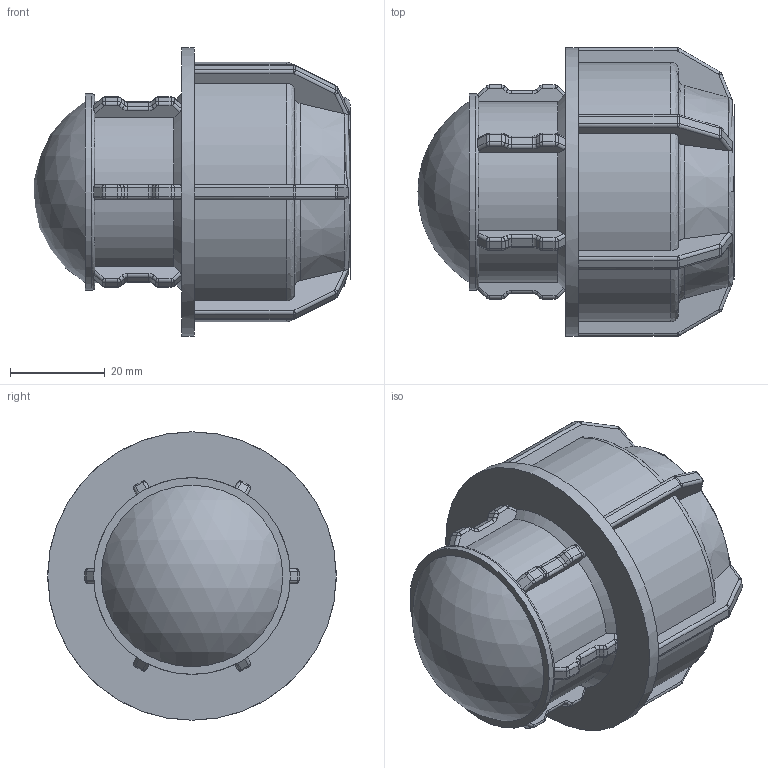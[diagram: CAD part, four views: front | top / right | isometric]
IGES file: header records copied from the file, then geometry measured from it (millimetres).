
Global section: file name: 141200032.ipt; native system: Autodesk Inventor 2015; preprocessor: unknown; author: KIM; date: 20180409.131138; units: millimetre
Bounding box: 66.85 x 61 x 61 mm (x, y, z)
Volume: 61386.7 mm3; surface area: 21912.2 mm2
Topology: 1 solids, 1 shells, 465 faces, 1149 edges, 686 vertices
Faces by surface type: cylinder 170, plane 156, revolution 126, cone 12, sphere 1
Full cylindrical faces by diameter (mm): 41.6 x1, 61 x1
